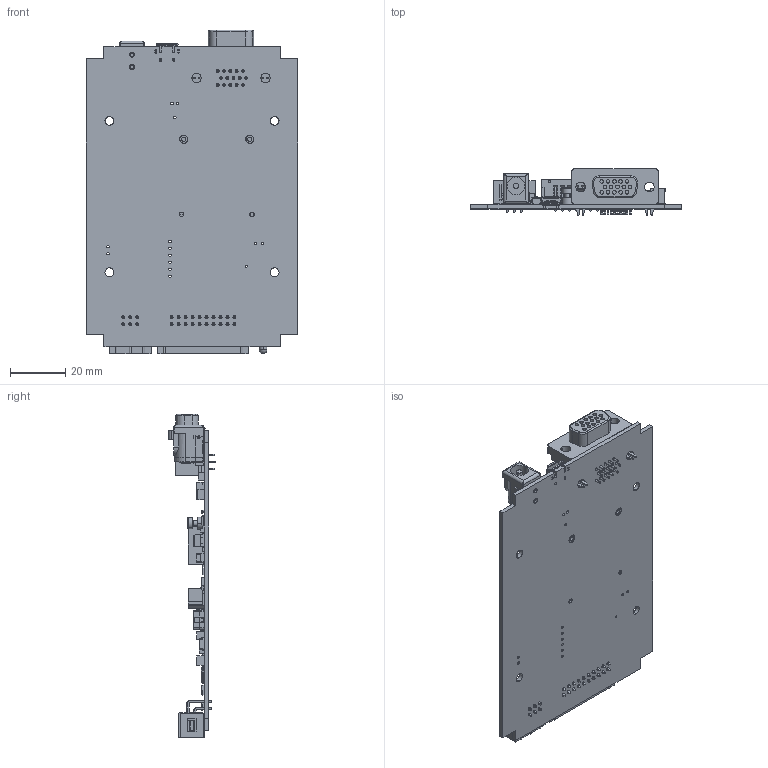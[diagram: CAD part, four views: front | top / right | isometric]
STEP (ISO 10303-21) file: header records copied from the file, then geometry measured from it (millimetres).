
FILE_DESCRIPTION (( 'STEP AP214' ), '1' );
FILE_NAME ('151-486-00_envelope.STEP', '2024-04-22T09:22:57', ( '' ), ( '' ), 'SwSTEP 2.0', 'SolidWorks 2022', '' );
FILE_SCHEMA (( 'AUTOMOTIVE_DESIGN' ));
Length unit declared in the file: millimetre
Products named in the file (254): C107_ALT^151-486-00_Rev-0-00_151-486-00.STEP; Q100_ALT^151-486-00_Rev-0-00_151-486-00.STEP; Mid_Body^6111071200_FB100_ALT_151-486-00_Rev-0-00_151-486-00.STEP; Extruded(2)^6158315712_C208_ALT_151-486-00_Rev-0-00_151-486-00.STEP; 151-486-00_01-Produkt (Name).STEP; 0603^R234_ALT_151-486-00_Rev-0-00_151-486-00.STEP; User_Library-POWERPAK_1212-8^Q101_ALT_151-486-00_Rev-0-00_151-486-00.STEP; Open CASCADE STEP translator 6.8 1.1.1^Board_ALT(2)_151-486-00_Rev-0-00_151-486-00.STEP; R223_ALT^151-486-00_Rev-0-00_151-486-00.STEP; 6158315712^C103_ALT_151-486-00_Rev-0-00_151-486-00.STEP; Extruded-6(2)^6158307312_FL204_ALT_151-486-00_Rev-0-00_151-486-00.STEP; Extruded-4(2)^6158314592_C109_ALT_151-486-00_Rev-0-00_151-486-00.STEP; 0603^R206_ALT_151-486-00_Rev-0-00_151-486-00.STEP; Open_CASCADE_STEP_translator_6.8_4.2.1^Mid_Body_6111071200_FB100_ALT_151-486-00_Rev-0-00_151-486-00.STEP; R218_ALT^151-486-00_Rev-0-00_151-486-00.STEP; C103_ALT^151-486-00_Rev-0-00_151-486-00.STEP; 6158314432^C110_ALT_151-486-00_Rev-0-00_151-486-00.STEP; R214_ALT^151-486-00_Rev-0-00_151-486-00.STEP; 0603^R230_ALT_151-486-00_Rev-0-00_151-486-00.STEP; Q101_ALT^151-486-00_Rev-0-00_151-486-00.STEP; 0603^C200_ALT_151-486-00_Rev-0-00_151-486-00.STEP; FL201_ALT^151-486-00_Rev-0-00_151-486-00.STEP; 151-486-00_Rev-0-00^151-486-00.STEP; C109_ALT^151-486-00_Rev-0-00_151-486-00.STEP; BOXHDR_14POS^P202_ALT_151-486-00_Rev-0-00_151-486-00.STEP; Extruded-14(2)^6158315392_R100_ALT_151-486-00_Rev-0-00_151-486-00.STEP; 0603^R222_ALT_151-486-00_Rev-0-00_151-486-00.STEP; 134-760-00_DIN912 M2x3.STEP; 9774025243_(rev1)^MH201_ALT_151-486-00_Rev-0-00_151-486-00.STEP; 10103592N_A^P207_ALT_151-486-00_Rev-0-00_151-486-00.STEP; FB100_ALT^151-486-00_Rev-0-00_151-486-00.STEP; L101_ALT^151-486-00_Rev-0-00_151-486-00.STEP; 0603^R214_ALT_151-486-00_Rev-0-00_151-486-00.STEP; Extruded-12(2)^6158314992_D104_ALT_151-486-00_Rev-0-00_151-486-00.STEP; 0603^R220_ALT_151-486-00_Rev-0-00_151-486-00.STEP; 0603^R201_ALT_151-486-00_Rev-0-00_151-486-00.STEP; Extruded-0(2)^6158315952_C208_ALT_151-486-00_Rev-0-00_151-486-00.STEP; base^STEP-WE-LHMI-4020-rev1_L101_ALT_151-486-00_Rev-0-00_151-486-00.STEP; User_Library-msop-10^FL200_ALT_151-486-00_Rev-0-00_151-486-00.STEP; R216_ALT^151-486-00_Rev-0-00_151-486-00.STEP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
Assembly tree (284 placements, depth 7):
  151-486-00_envelope
    151-486-00_01-Produkt (Name).STEP
      151-486-00_Rev-0-00^151-486-00.STEP
        Board_ALT(2)^151-486-00_Rev-0-00_151-486-00.STEP
          Open CASCADE STEP translator 6.8 1.1.1^Board_ALT(2)_151-486-00_Rev-0-00_151-486-00.STEP
            Open CASCADE STEP translator 6.8 1.1.1.1^Open CASCADE STEP translator 6.8 1.1.1_Board_ALT(2)_151-486-00_Rev-0-00_151-486-00.STEP
        P201_ALT^151-486-00_Rev-0-00_151-486-00.STEP
          61202021721_(rev1)^P201_ALT_151-486-00_Rev-0-00_151-486-00.STEP
            61202021621^61202021721_(rev1)_P201_ALT_151-486-00_Rev-0-00_151-486-00.STEP
            6120xx21721_PIN^61202021721_(rev1)_P201_ALT_151-486-00_Rev-0-00_151-486-00.STEP  x10
            6120xx21721_PIN_LONGUE^61202021721_(rev1)_P201_ALT_151-486-00_Rev-0-00_151-486-00.STEP  x10
        R234_ALT^151-486-00_Rev-0-00_151-486-00.STEP
          0603^R234_ALT_151-486-00_Rev-0-00_151-486-00.STEP
        R233_ALT^151-486-00_Rev-0-00_151-486-00.STEP
          0603^R233_ALT_151-486-00_Rev-0-00_151-486-00.STEP
        R232_ALT^151-486-00_Rev-0-00_151-486-00.STEP
          0603^R232_ALT_151-486-00_Rev-0-00_151-486-00.STEP
        R214_ALT^151-486-00_Rev-0-00_151-486-00.STEP
          0603^R214_ALT_151-486-00_Rev-0-00_151-486-00.STEP
        R213_ALT^151-486-00_Rev-0-00_151-486-00.STEP
          0603^R213_ALT_151-486-00_Rev-0-00_151-486-00.STEP
        U204_ALT^151-486-00_Rev-0-00_151-486-00.STEP
          DBV0005AaksMF05A^U204_ALT_151-486-00_Rev-0-00_151-486-00.STEP
            BODY_MF05A^DBV0005AaksMF05A_U204_ALT_151-486-00_Rev-0-00_151-486-00.STEP
            LEAD_MF05F^DBV0005AaksMF05A_U204_ALT_151-486-00_Rev-0-00_151-486-00.STEP  x5
        C211_ALT^151-486-00_Rev-0-00_151-486-00.STEP
          0603^C211_ALT_151-486-00_Rev-0-00_151-486-00.STEP
        C210_ALT^151-486-00_Rev-0-00_151-486-00.STEP
          0603^C210_ALT_151-486-00_Rev-0-00_151-486-00.STEP
        C208_ALT^151-486-00_Rev-0-00_151-486-00.STEP
          6158315712^C208_ALT_151-486-00_Rev-0-00_151-486-00.STEP
            Extruded(2)^6158315712_C208_ALT_151-486-00_Rev-0-00_151-486-00.STEP
          6158315952^C208_ALT_151-486-00_Rev-0-00_151-486-00.STEP  x2
            Extruded-0(2)^6158315952_C208_ALT_151-486-00_Rev-0-00_151-486-00.STEP
        C207_ALT^151-486-00_Rev-0-00_151-486-00.STEP
          6158316752^C207_ALT_151-486-00_Rev-0-00_151-486-00.STEP
            Extruded-1(2)^6158316752_C207_ALT_151-486-00_Rev-0-00_151-486-00.STEP
          6158316592^C207_ALT_151-486-00_Rev-0-00_151-486-00.STEP  x2
            Extruded-2(2)^6158316592_C207_ALT_151-486-00_Rev-0-00_151-486-00.STEP
        C109_ALT^151-486-00_Rev-0-00_151-486-00.STEP
          6158314832^C109_ALT_151-486-00_Rev-0-00_151-486-00.STEP  x2
            Extruded-3(2)^6158314832_C109_ALT_151-486-00_Rev-0-00_151-486-00.STEP
          6158314592^C109_ALT_151-486-00_Rev-0-00_151-486-00.STEP
            Extruded-4(2)^6158314592_C109_ALT_151-486-00_Rev-0-00_151-486-00.STEP
        C209_ALT^151-486-00_Rev-0-00_151-486-00.STEP
          0603^C209_ALT_151-486-00_Rev-0-00_151-486-00.STEP
        C110_ALT^151-486-00_Rev-0-00_151-486-00.STEP
          6158314432^C110_ALT_151-486-00_Rev-0-00_151-486-00.STEP
            Extruded-5(2)^6158314432_C110_ALT_151-486-00_Rev-0-00_151-486-00.STEP
        C201_ALT^151-486-00_Rev-0-00_151-486-00.STEP
          0603^C201_ALT_151-486-00_Rev-0-00_151-486-00.STEP
        R231_ALT^151-486-00_Rev-0-00_151-486-00.STEP
          0603^R231_ALT_151-486-00_Rev-0-00_151-486-00.STEP
        R230_ALT^151-486-00_Rev-0-00_151-486-00.STEP
          0603^R230_ALT_151-486-00_Rev-0-00_151-486-00.STEP
        R229_ALT^151-486-00_Rev-0-00_151-486-00.STEP
          0603^R229_ALT_151-486-00_Rev-0-00_151-486-00.STEP
        R228_ALT^151-486-00_Rev-0-00_151-486-00.STEP
          0603^R228_ALT_151-486-00_Rev-0-00_151-486-00.STEP
        R227_ALT^151-486-00_Rev-0-00_151-486-00.STEP
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Bounding box: 77 x 16.93 x 117.47 mm (x, y, z)
Volume: 22857.6 mm3; surface area: 31086.6 mm2
Topology: 315 solids, 367 shells, 11712 faces, 30615 edges, 20096 vertices
Faces by surface type: plane 7189, bspline 3236, cylinder 1169, cone 66, sphere 38, torus 14
Entity records: 515277 total; most frequent: CARTESIAN_POINT 241348, ORIENTED_EDGE 58699, DIRECTION 40116, EDGE_CURVE 29557, VERTEX_POINT 19460, VECTOR 18780, LINE 18780, EDGE_LOOP 12148
